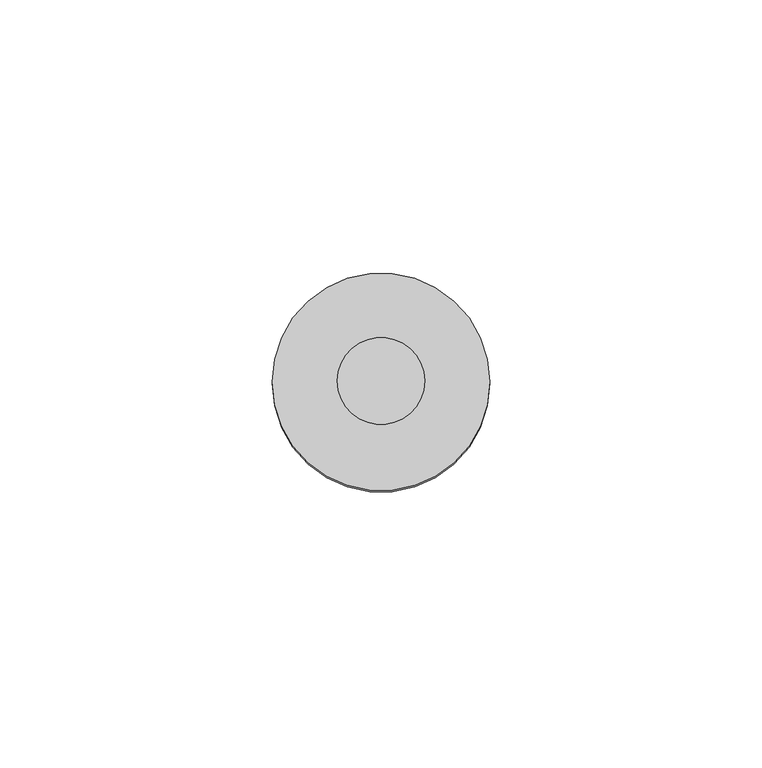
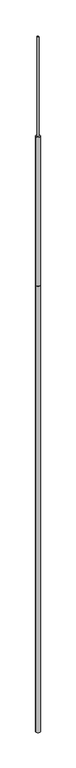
"""IFC4 building model written with IfcOpenShell, lengths in millimetres: proxy geometry, КНС_МачтаИзолированнаяМолниеприемная_DKC : NL7000HV_Нержавеющая сталь_7м."""

from ifc_helpers import new_model, si_unit, point, frame, origin, origin_with_axes, origin_2d, place, context, project, spatial, circle_curve, trimmed, segment, composite_curve, outline, extrude, source, transform, mapped, element, save


def security_devices_1e134b05(model_context):
    return source(origin(), model_context, "Body", "SweptSolid", [
        extrude(outline(composite_curve([segment(trimmed(circle_curve(origin_2d(), 8.0), [point((-8.0, 0.0))], [point((8.0, 0.0))], False, "CARTESIAN"), True, "CONTINUOUS"), segment(trimmed(circle_curve(origin_2d(), 8.0), [point((8.0, 0.0))], [point((-8.0, 0.0))], False, "CARTESIAN"), True, "CONTINUOUS")], self_intersect=False)), frame((0.0, 0.0, 6000.0), z_axis=(0.0, 0.0, 1.0), x_axis=(1.0, 0.0, 0.0)), (0.0, 0.0, 1.0), 1000.0),
        extrude(outline(composite_curve([segment(trimmed(circle_curve(origin_2d(), 20.0), [point((-20.0, 0.0))], [point((20.0, 0.0))], False, "CARTESIAN"), True, "CONTINUOUS"), segment(trimmed(circle_curve(origin_2d(), 20.0), [point((20.0, 0.0))], [point((-20.0, 0.0))], False, "CARTESIAN"), True, "CONTINUOUS")], self_intersect=False)), frame((0.0, 0.0, 4500.0), z_axis=(0.0, 0.0, 1.0), x_axis=(1.0, 0.0, 0.0)), (0.0, 0.0, 1.0), 1500.0),
        extrude(outline(composite_curve([segment(trimmed(circle_curve(origin_2d(), 20.0), [point((-20.0, 0.0))], [point((20.0, 0.0))], False, "CARTESIAN"), True, "CONTINUOUS"), segment(trimmed(circle_curve(origin_2d(), 20.0), [point((20.0, 0.0))], [point((-20.0, 0.0))], False, "CARTESIAN"), True, "CONTINUOUS")], self_intersect=False)), origin_with_axes(), (0.0, 0.0, 1.0), 4500.0),
    ])


if __name__ == "__main__":
    model = new_model("IFC4")
    model_context = context("Model", 3, world=origin())
    ifc_project = project(units=[si_unit("LENGTHUNIT", "METRE", prefix="MILLI")], contexts=[model_context])
    site = spatial("IfcSite", under=ifc_project)
    building = spatial("IfcBuilding", under=site)
    placement = place(None, origin())
    security_devices_shape = security_devices_1e134b05(model_context)
    element("IfcBuildingElementProxy", 1, Name="КНС_МачтаИзолированнаяМолниеприемная_DKC : NL7000HV_Нержавеющая сталь_7м", ObjectType="КНС_МачтаИзолированнаяМолниеприемная_DKC : NL7000HV_Нержавеющая сталь_7м", at=placement, inside=building, context=model_context, shape_type="MappedRepresentation", body=[
        mapped(security_devices_shape, transform((0.0, 0.0, 0.0), x_axis=(1.0, 0.0, 0.0), y_axis=(0.0, 1.0, 0.0), z_axis=(0.0, 0.0, 1.0))),
    ])
    save(model, "model.ifc")
